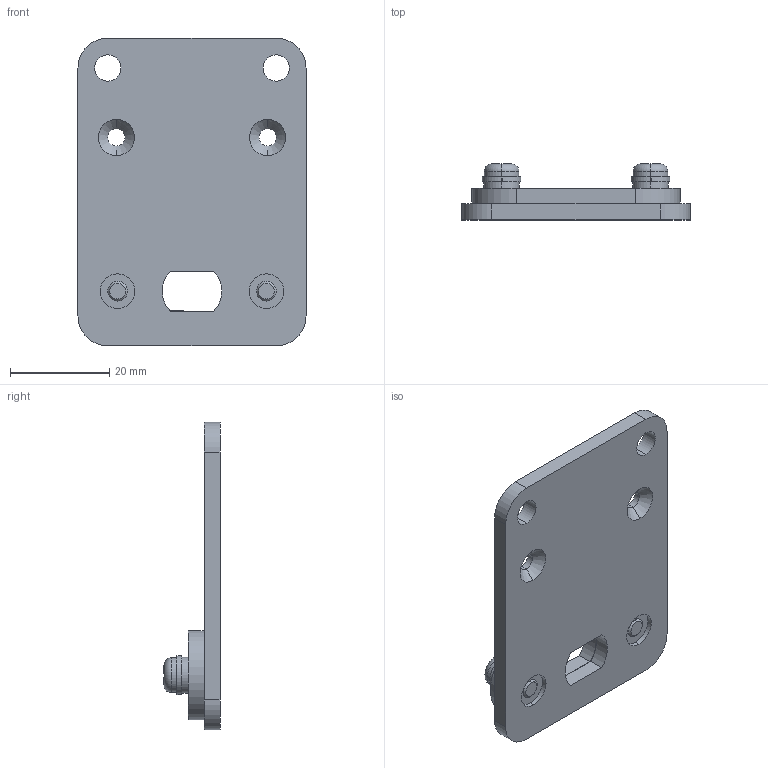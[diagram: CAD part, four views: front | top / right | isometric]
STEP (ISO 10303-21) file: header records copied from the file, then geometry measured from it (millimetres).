
FILE_DESCRIPTION (( 'STEP AP203' ), '1' );
FILE_NAME ('WA-120.STEP', '2022-10-31T05:27:58', ( '' ), ( '' ), 'SwSTEP 2.0', 'SolidWorks 2017', '' );
FILE_SCHEMA (( 'CONFIG_CONTROL_DESIGN' ));
Length unit declared in the file: millimetre
Products named in the file (4): SPアダプター010; WA-120; ターミナルプレート100; M4x8ナベ小P2
Assembly tree (4 placements, depth 2):
  WA-120
    ターミナルプレート100
    SPアダプター010
    M4x8ナベ小P2  x2
Bounding box: 46 x 11.3 x 62 mm (x, y, z)
Volume: 10658.8 mm3; surface area: 8760 mm2
Topology: 4 solids, 4 shells, 142 faces, 354 edges, 230 vertices
Faces by surface type: plane 68, cylinder 62, cone 8, torus 4
Entity records: 3666 total; most frequent: CARTESIAN_POINT 606, DIRECTION 586, ORIENTED_EDGE 518, EDGE_CURVE 259, AXIS2_PLACEMENT_3D 229, VERTEX_POINT 169, EDGE_LOOP 134, LINE 128
